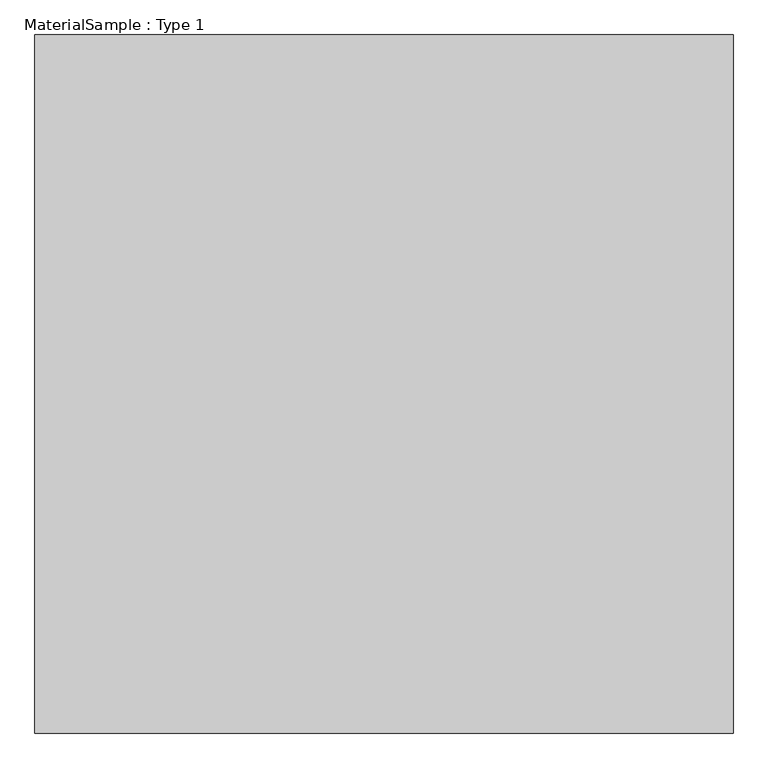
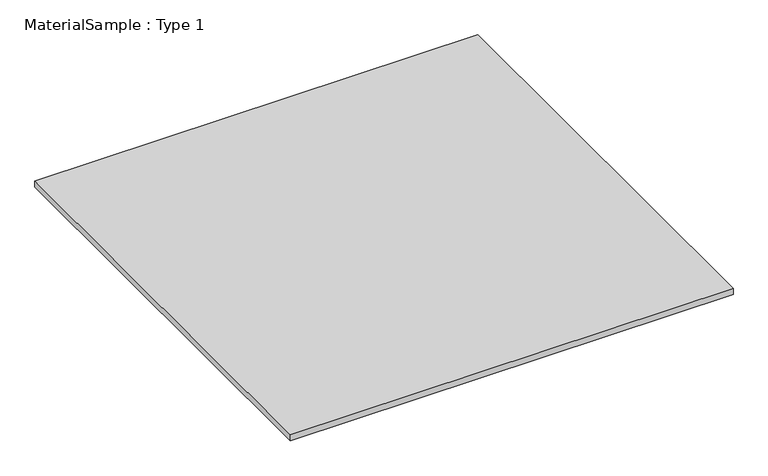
"""IFC4 building model written with IfcOpenShell, lengths in millimetres: proxy geometry, MaterialSample : Type 1."""

from ifc_helpers import new_model, si_unit, origin, origin_with_axes, place, context, project, spatial, polyline, outline, extrude, source, transform, mapped, element, save


def materialsample_type_1_65bc777a(model_context):
    return source(origin(), model_context, "Body", "SweptSolid", [
        extrude(outline(polyline([(1828.8, 0.0), (0.0, 0.0), (0.0, 1828.8), (1828.8, 1828.8), (1828.8, 0.0)])), origin_with_axes(), (0.0, 0.0, 1.0), 25.4),
    ])


if __name__ == "__main__":
    model = new_model("IFC4")
    model_context = context("Model", 3, world=origin())
    ifc_project = project(units=[si_unit("LENGTHUNIT", "METRE", prefix="MILLI")], contexts=[model_context])
    site = spatial("IfcSite", under=ifc_project)
    building = spatial("IfcBuilding", under=site)
    placement = place(None, origin())
    materialsample_type_1_shape = materialsample_type_1_65bc777a(model_context)
    element("IfcBuildingElementProxy", 1, Name="MaterialSample : Type 1", ObjectType="MaterialSample : Type 1", at=placement, inside=building, context=model_context, shape_type="MappedRepresentation", body=[
        mapped(materialsample_type_1_shape, transform((0.0, 0.0, 0.0), x_axis=(1.0, 0.0, 0.0), y_axis=(0.0, 1.0, 0.0), z_axis=(0.0, 0.0, 1.0))),
    ])
    save(model, "model.ifc")
